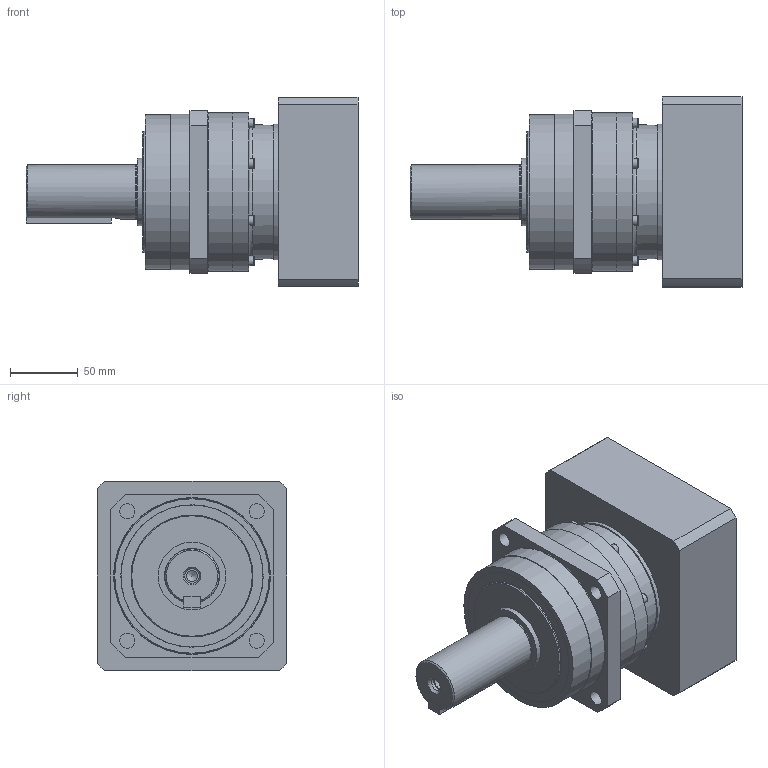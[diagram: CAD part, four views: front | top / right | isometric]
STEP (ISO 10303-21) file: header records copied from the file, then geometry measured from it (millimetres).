
FILE_DESCRIPTION(/* description */ ('ANFX-P130W-1-S70G'),/* implementation_level */ '2;1');
FILE_NAME(/* name */ 'C:\Users\ADMINI~1\AppData\Local\Temp\MM579206_ANFX-P130W-1-S70G.stp',/* time_stamp */ '2018-06-20T10:10:26+02:00',/* author */ ('Max'),/* organization */ (''),/* preprocessor_version */ 'ST-DEVELOPER v17',/* originating_system */ 'Autodesk Inventor 2018',/* authorisation */ '');
FILE_SCHEMA (('AUTOMOTIVE_DESIGN { 1 0 10303 214 3 1 1 }'));
Length unit declared in the file: millimetre
Products named in the file (18): MM579206; MMBG0004078; MMCL445LG; MMCM226LG; MAX4841G; MAW8388G; M233C1208063NG; MMBG0004105; MMCH509LG; 5006008RS---G; 211554; M530A406212--G; MMCH463LG; 203651; 139933; 204123; MAW8794G; M286WFUR-068-G
Assembly tree (31 placements, depth 3):
  MM579206
    MMBG0004078
      MMCL445LG
      MMCM226LG
      MAX4841G
      MAW8388G
      M233C1208063NG
    MMBG0004105
      MMCH509LG
      5006008RS---G
      211554  x8
      M530A406212--G
      MMCH463LG
      203651
    139933
    204123  x8
    MAW8794G
    M286WFUR-068-G
Bounding box: 245 x 140 x 140 mm (x, y, z)
Volume: 1471479.4 mm3; surface area: 330569.5 mm2
Topology: 88 solids, 89 shells, 602 faces, 1689 edges, 1209 vertices
Faces by surface type: plane 253, cylinder 168, cone 72, sphere 58, torus 51
Full cylindrical faces by diameter (mm): 3.242 x10, 4 x9, 4.5 x8, 4.917 x8, 6 x8, 6.6 x8, 6.647 x1, 7 x8, 8 x1, 8.376 x5, 9 x1, 10 x8, 10.5 x1, 11 x4, 13 x1, 15 x1, 15.2 x1, 15.6 x1, 18 x1, 20 x1, 20.5 x1, 28 x1, 32.5 x1, 37 x1, 38 x1, 39.4 x1, 39.6 x1, 40 x3, 42 x1, 45.28 x1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
Entity records: 14153 total; most frequent: CARTESIAN_POINT 2597, DIRECTION 2532, ORIENTED_EDGE 2006, AXIS2_PLACEMENT_3D 1124, EDGE_CURVE 1003, VERTEX_POINT 824, CIRCLE 676, EDGE_LOOP 537
